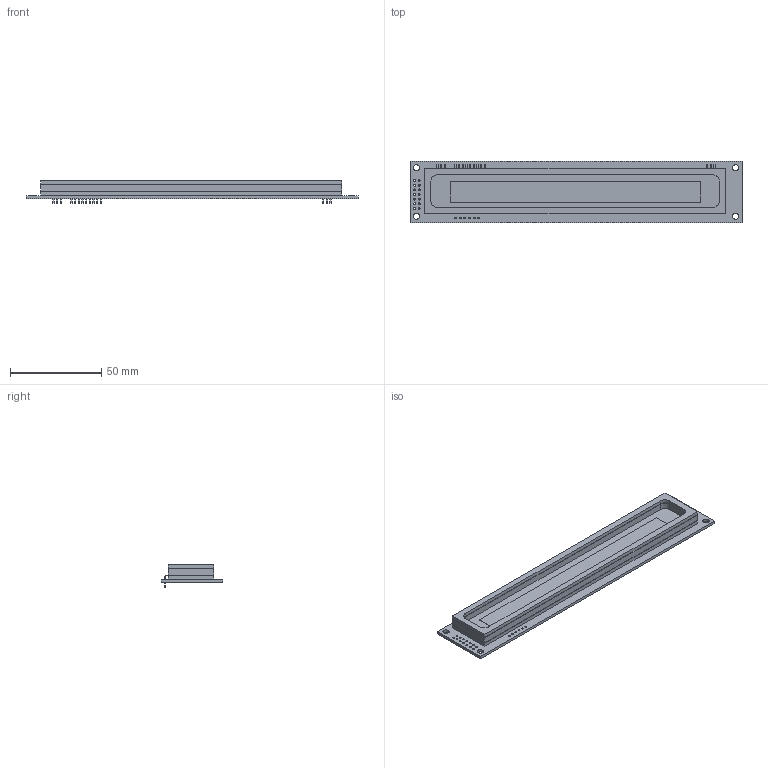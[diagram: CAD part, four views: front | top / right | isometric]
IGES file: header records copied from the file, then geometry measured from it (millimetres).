
Start section:  PTC IGES file: gu280x16g-7000.igs
Global section: file name: gu280x16g-7000.igs; native system: Pro/ENGINEER by Parametric Technology Corporation; preprocessor: 2010280; author: samx; organization: Unknown; date: 20140522.115840; units: millimetre
Bounding box: 182 x 33.5 x 12.5 mm (x, y, z)
Volume: 25329.2 mm3; surface area: 31407.8 mm2
Topology: 3 solids, 3 shells, 335 faces, 948 edges, 622 vertices
Faces by surface type: bspline 217, revolution 118
